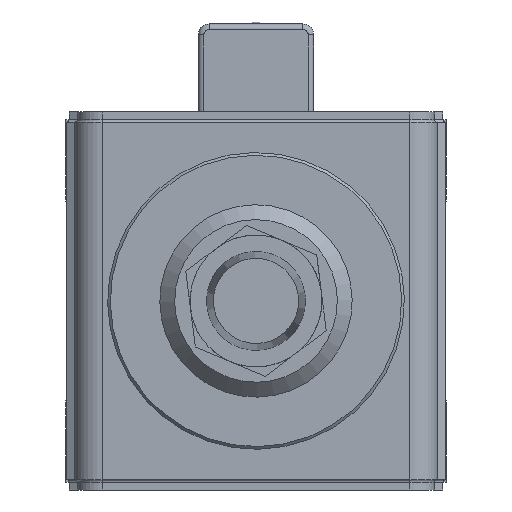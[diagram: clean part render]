
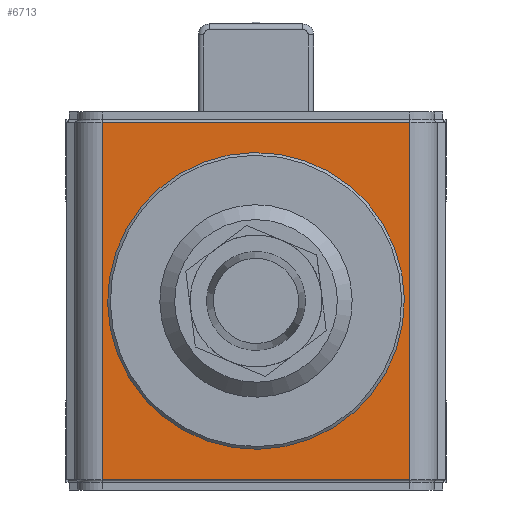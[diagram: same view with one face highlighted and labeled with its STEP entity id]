
A CAD part, front view. The second image highlights one B-rep face of the part: STEP entity #6713.
In plain terms, the highlighted planar face has unit normal (0, -1, 0).
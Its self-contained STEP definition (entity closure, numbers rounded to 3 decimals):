
#6479=CARTESIAN_POINT('',(28.,-33.5,32.5));
#6480=VERTEX_POINT('',#6479);
#6542=CARTESIAN_POINT('',(-28.,-33.5,32.5));
#6543=VERTEX_POINT('',#6542);
#6551=CARTESIAN_POINT('',(28.,-33.5,32.5));
#6552=DIRECTION('',(-1.0,0.0,0.0));
#6553=VECTOR('',#6552,56.0);
#6554=LINE('',#6551,#6553);
#6555=EDGE_CURVE('',#6480,#6543,#6554,.T.);
#6659=CARTESIAN_POINT('',(28.,-33.5,-32.5));
#6660=VERTEX_POINT('',#6659);
#6670=CARTESIAN_POINT('',(28.0,-33.5,-32.5));
#6671=DIRECTION('',(0.0,0.0,1.0));
#6672=VECTOR('',#6671,65.);
#6673=LINE('',#6670,#6672);
#6674=EDGE_CURVE('',#6660,#6480,#6673,.T.);
#6679=CARTESIAN_POINT('',(0.0,-33.5,0.0));
#6680=DIRECTION('',(0.0,-1.0,0.0));
#6681=DIRECTION('',(0.0,0.0,-1.0));
#6682=AXIS2_PLACEMENT_3D('',#6679,#6680,#6681);
#6683=PLANE('',#6682);
#6684=CARTESIAN_POINT('',(-28.,-33.5,-32.5));
#6685=VERTEX_POINT('',#6684);
#6686=CARTESIAN_POINT('',(-28.,-33.5,-32.5));
#6687=DIRECTION('',(1.0,0.0,0.0));
#6688=VECTOR('',#6687,56.0);
#6689=LINE('',#6686,#6688);
#6690=EDGE_CURVE('',#6685,#6660,#6689,.T.);
#6691=ORIENTED_EDGE('',*,*,#6690,.T.);
#6692=ORIENTED_EDGE('',*,*,#6674,.T.);
#6693=ORIENTED_EDGE('',*,*,#6555,.T.);
#6694=CARTESIAN_POINT('',(-28.0,-33.5,-32.5));
#6695=DIRECTION('',(0.0,0.0,1.0));
#6696=VECTOR('',#6695,65.);
#6697=LINE('',#6694,#6696);
#6698=EDGE_CURVE('',#6685,#6543,#6697,.T.);
#6699=ORIENTED_EDGE('',*,*,#6698,.F.);
#6700=EDGE_LOOP('',(#6691,#6692,#6693,#6699));
#6701=FACE_OUTER_BOUND('',#6700,.T.);
#6702=CARTESIAN_POINT('',(5.082,-33.5,-26.517));
#6703=VERTEX_POINT('',#6702);
#6704=CARTESIAN_POINT('',(0.0,-33.5,0.0));
#6705=DIRECTION('',(0.,1.0,0.));
#6706=DIRECTION('',(0.188,0.,-0.982));
#6707=AXIS2_PLACEMENT_3D('',#6704,#6705,#6706);
#6708=CIRCLE('',#6707,27.);
#6709=EDGE_CURVE('',#6703,#6703,#6708,.T.);
#6710=ORIENTED_EDGE('',*,*,#6709,.T.);
#6711=EDGE_LOOP('',(#6710));
#6712=FACE_BOUND('',#6711,.T.);
#6713=ADVANCED_FACE('',(#6701,#6712),#6683,.T.);
